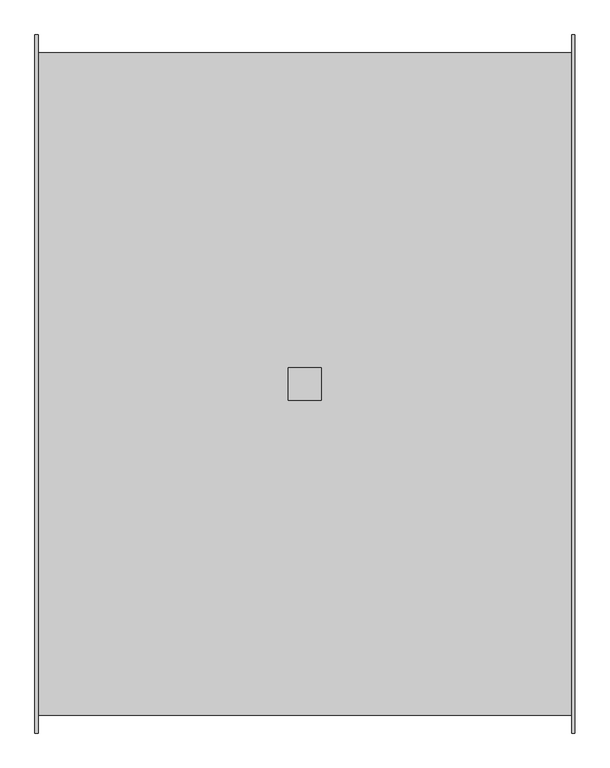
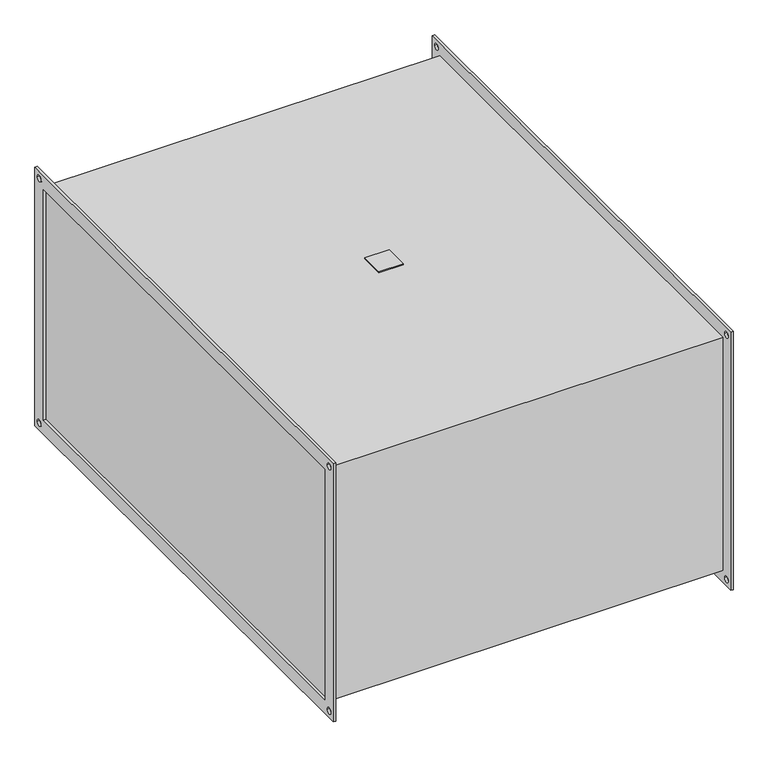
"""IFC4 building model written with IfcOpenShell, lengths in millimetres: damper geometry, KORF_Фильтр_Карманный_FKR : FKR 100-50  EU5."""

from ifc_helpers import new_model, si_unit, point, frame, frame_2d, origin, place, context, project, spatial, polyline, circle_curve, trimmed, segment, composite_curve, outline, extrude, source, transform, mapped, element, save


def damper_6eec61e3(model_context):
    return source(origin(), model_context, "Body", "SweptSolid", [
        extrude(outline(polyline([(435.0, 25.0), (435.0, -25.0), (385.0, -25.0), (385.0, 25.0), (435.0, 25.0)])), frame((0.0, 0.0, 253.0), z_axis=(0.0, 0.0, 1.0), x_axis=(1.0, 0.0, 0.0)), (0.0, 0.0, 1.0), 2.0),
        extrude(outline(polyline([(-530.0, 280.0), (530.0, 280.0), (530.0, -280.0), (-530.0, -280.0), (-530.0, 280.0)]), holes=[polyline([(-500.0, 250.0), (-500.0, -250.0), (500.0, -250.0), (500.0, 250.0), (-500.0, 250.0)]), composite_curve([segment(trimmed(circle_curve(frame_2d((515.0, 265.0)), 6.5), [point((508.5, 265.0))], [point((521.5, 265.0))], True, "CARTESIAN"), True, "CONTINUOUS"), segment(trimmed(circle_curve(frame_2d((515.0, 265.0)), 6.5), [point((521.5, 265.0))], [point((508.5, 265.0))], True, "CARTESIAN"), True, "CONTINUOUS")], self_intersect=False), composite_curve([segment(trimmed(circle_curve(frame_2d((-515.0, 265.0)), 6.5), [point((-521.5, 265.0))], [point((-508.5, 265.0))], True, "CARTESIAN"), True, "CONTINUOUS"), segment(trimmed(circle_curve(frame_2d((-515.0, 265.0)), 6.5), [point((-508.5, 265.0))], [point((-521.5, 265.0))], True, "CARTESIAN"), True, "CONTINUOUS")], self_intersect=False), composite_curve([segment(trimmed(circle_curve(frame_2d((-515.0, -265.0)), 6.5), [point((-521.5, -265.0))], [point((-508.5, -265.0))], True, "CARTESIAN"), True, "CONTINUOUS"), segment(trimmed(circle_curve(frame_2d((-515.0, -265.0)), 6.5), [point((-508.5, -265.0))], [point((-521.5, -265.0))], True, "CARTESIAN"), True, "CONTINUOUS")], self_intersect=False), composite_curve([segment(trimmed(circle_curve(frame_2d((515.0, -265.0)), 6.5), [point((508.5, -265.0))], [point((521.5, -265.0))], True, "CARTESIAN"), True, "CONTINUOUS"), segment(trimmed(circle_curve(frame_2d((515.0, -265.0)), 6.5), [point((521.5, -265.0))], [point((508.5, -265.0))], True, "CARTESIAN"), True, "CONTINUOUS")], self_intersect=False)]), frame((815.0, 0.0, 0.0), z_axis=(1.0, 0.0, 0.0), x_axis=(0.0, 1.0, 0.0)), (0.0, 0.0, 1.0), 5.0),
        extrude(outline(polyline([(-530.0, 280.0), (530.0, 280.0), (530.0, -280.0), (-530.0, -280.0), (-530.0, 280.0)]), holes=[polyline([(-500.0, 250.0), (-500.0, -250.0), (500.0, -250.0), (500.0, 250.0), (-500.0, 250.0)]), composite_curve([segment(trimmed(circle_curve(frame_2d((515.0, 265.0)), 6.5), [point((508.5, 265.0))], [point((521.5, 265.0))], True, "CARTESIAN"), True, "CONTINUOUS"), segment(trimmed(circle_curve(frame_2d((515.0, 265.0)), 6.5), [point((521.5, 265.0))], [point((508.5, 265.0))], True, "CARTESIAN"), True, "CONTINUOUS")], self_intersect=False), composite_curve([segment(trimmed(circle_curve(frame_2d((-515.0, 265.0)), 6.5), [point((-521.5, 265.0))], [point((-508.5, 265.0))], True, "CARTESIAN"), True, "CONTINUOUS"), segment(trimmed(circle_curve(frame_2d((-515.0, 265.0)), 6.5), [point((-508.5, 265.0))], [point((-521.5, 265.0))], True, "CARTESIAN"), True, "CONTINUOUS")], self_intersect=False), composite_curve([segment(trimmed(circle_curve(frame_2d((-515.0, -265.0)), 6.5), [point((-521.5, -265.0))], [point((-508.5, -265.0))], True, "CARTESIAN"), True, "CONTINUOUS"), segment(trimmed(circle_curve(frame_2d((-515.0, -265.0)), 6.5), [point((-508.5, -265.0))], [point((-521.5, -265.0))], True, "CARTESIAN"), True, "CONTINUOUS")], self_intersect=False), composite_curve([segment(trimmed(circle_curve(frame_2d((515.0, -265.0)), 6.5), [point((508.5, -265.0))], [point((521.5, -265.0))], True, "CARTESIAN"), True, "CONTINUOUS"), segment(trimmed(circle_curve(frame_2d((515.0, -265.0)), 6.5), [point((521.5, -265.0))], [point((508.5, -265.0))], True, "CARTESIAN"), True, "CONTINUOUS")], self_intersect=False)]), frame((0.0, 0.0, 0.0), z_axis=(1.0, 0.0, 0.0), x_axis=(0.0, 1.0, 0.0)), (0.0, 0.0, 1.0), 5.0),
        extrude(outline(polyline([(815.0, 503.0), (815.0, -503.0), (5.0, -503.0), (5.0, 503.0), (815.0, 503.0)])), frame((0.0, 0.0, -253.0), z_axis=(0.0, 0.0, 1.0), x_axis=(1.0, 0.0, 0.0)), (0.0, 0.0, 1.0), 506.0),
    ])


if __name__ == "__main__":
    model = new_model("IFC4")
    model_context = context("Model", 3, world=origin())
    ifc_project = project(units=[si_unit("LENGTHUNIT", "METRE", prefix="MILLI")], contexts=[model_context])
    site = spatial("IfcSite", under=ifc_project)
    building = spatial("IfcBuilding", under=site)
    placement = place(None, origin())
    damper_shape = damper_6eec61e3(model_context)
    element("IfcDamper", 1, ObjectType="KORF_Фильтр_Карманный_FKR : FKR 100-50  EU5", at=placement, inside=building, context=model_context, shape_type="MappedRepresentation", body=[
        mapped(damper_shape, transform((0.0, 0.0, 0.0), x_axis=(1.0, 0.0, 0.0), y_axis=(0.0, 1.0, 0.0), z_axis=(0.0, 0.0, 1.0))),
    ])
    save(model, "model.ifc")
